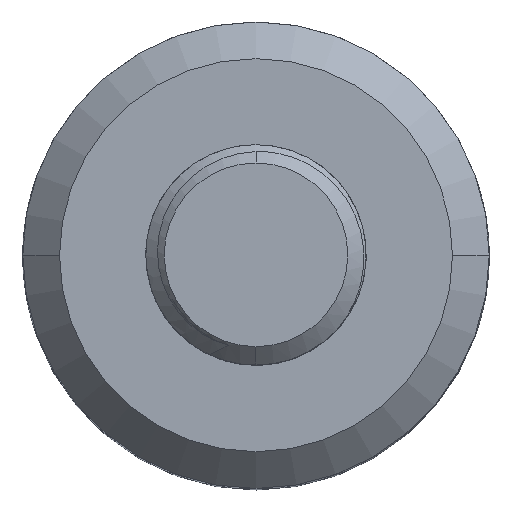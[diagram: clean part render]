
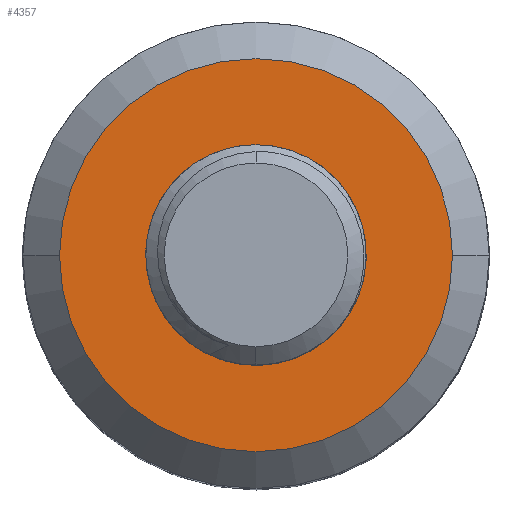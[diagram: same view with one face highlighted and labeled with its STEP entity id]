
A CAD part, top view. The second image highlights one B-rep face of the part: STEP entity #4357.
In plain terms, the highlighted planar face has unit normal (0, 0, 1).
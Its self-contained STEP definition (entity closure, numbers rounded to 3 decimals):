
#1677=CARTESIAN_POINT('',(0.,0.,25.4));
#1678=DIRECTION('',(0.,0.,1.));
#1679=DIRECTION('',(-1.,0.,0.));
#1680=AXIS2_PLACEMENT_3D('',#1677,#1678,#1679);
#1682=CARTESIAN_POINT('',(0.,0.,25.4));
#1683=DIRECTION('',(0.,0.,1.));
#1684=DIRECTION('',(1.,0.,0.));
#1685=AXIS2_PLACEMENT_3D('',#1682,#1683,#1684);
#1687=CARTESIAN_POINT('',(0.,0.,25.4));
#1688=DIRECTION('',(0.,0.,-1.));
#1689=DIRECTION('',(0.,1.,0.));
#1690=AXIS2_PLACEMENT_3D('',#1687,#1688,#1689);
#1692=CARTESIAN_POINT('',(0.,0.,25.4));
#1693=DIRECTION('',(0.,0.,-1.));
#1694=DIRECTION('',(0.,-1.,0.));
#1695=AXIS2_PLACEMENT_3D('',#1692,#1693,#1694);
#2394=CARTESIAN_POINT('',(-5.35,0.,25.4));
#2395=CARTESIAN_POINT('',(5.35,0.,25.4));
#2396=VERTEX_POINT('',#2394);
#2397=VERTEX_POINT('',#2395);
#2438=CARTESIAN_POINT('',(0.,2.,25.4));
#2439=CARTESIAN_POINT('',(0.,-2.,25.4));
#2440=VERTEX_POINT('',#2438);
#2441=VERTEX_POINT('',#2439);
#4341=CARTESIAN_POINT('',(0.,0.,25.4));
#4342=DIRECTION('',(0.,0.,1.));
#4343=DIRECTION('',(1.,0.,0.));
#4344=AXIS2_PLACEMENT_3D('',#4341,#4342,#4343);
#4345=PLANE('',#4344);
#4346=ORIENTED_EDGE('',*,*,#4331,.F.);
#4348=ORIENTED_EDGE('',*,*,#4347,.F.);
#4349=EDGE_LOOP('',(#4346,#4348));
#4350=FACE_OUTER_BOUND('',#4349,.F.);
#4352=ORIENTED_EDGE('',*,*,#4351,.F.);
#4354=ORIENTED_EDGE('',*,*,#4353,.F.);
#4355=EDGE_LOOP('',(#4352,#4354));
#4356=FACE_BOUND('',#4355,.F.);
#4357=ADVANCED_FACE('',(#4350,#4356),#4345,.T.);
#1681=CIRCLE('',#1680,5.35);
#1686=CIRCLE('',#1685,5.35);
#1691=CIRCLE('',#1690,2.);
#1696=CIRCLE('',#1695,2.);
#4331=EDGE_CURVE('',#2396,#2397,#1681,.T.);
#4347=EDGE_CURVE('',#2397,#2396,#1686,.T.);
#4351=EDGE_CURVE('',#2440,#2441,#1691,.T.);
#4353=EDGE_CURVE('',#2441,#2440,#1696,.T.);
